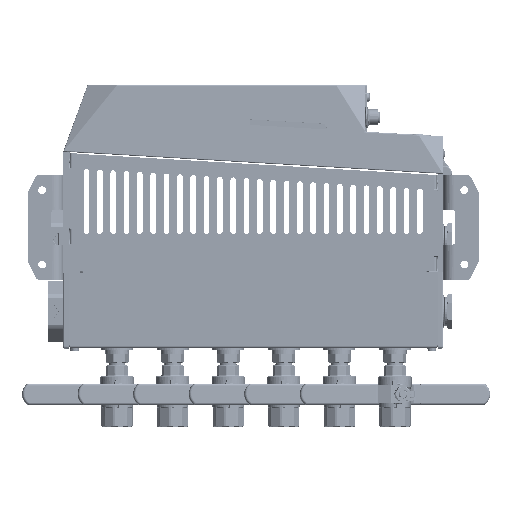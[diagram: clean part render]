
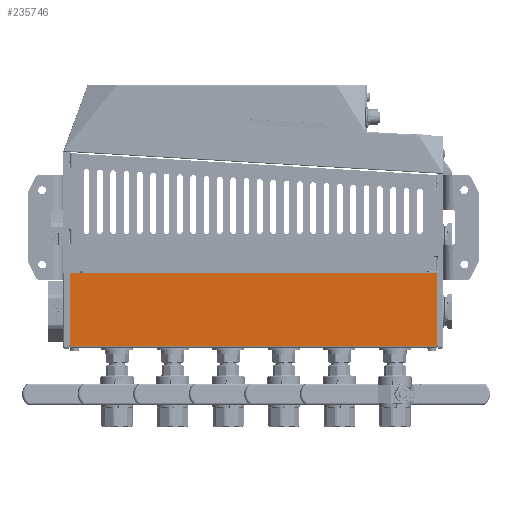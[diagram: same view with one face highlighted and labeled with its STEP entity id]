
A CAD part, left-side view. The second image highlights one B-rep face of the part: STEP entity #235746.
In plain terms, the highlighted planar face has unit normal (-1, 0, 0) as drawn and (0, -1, 0) by its records, which use the part's own axes.
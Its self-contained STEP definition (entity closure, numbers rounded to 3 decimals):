
#16571 = CARTESIAN_POINT ( 'NONE',  ( 0., -84., -165. ) ) ;
#23306 = AXIS2_PLACEMENT_3D ( 'NONE', #172385, #60688, #202007 ) ;
#24608 = VERTEX_POINT ( 'NONE', #54776 ) ;
#29340 = LINE ( 'NONE', #237175, #131068 ) ;
#34042 = VERTEX_POINT ( 'NONE', #145247 ) ;
#48014 = FACE_OUTER_BOUND ( 'NONE', #166303, .T. ) ;
#54776 = CARTESIAN_POINT ( 'NONE',  ( 2., -84., 165. ) ) ;
#55113 = CARTESIAN_POINT ( 'NONE',  ( 0., -84., 165. ) ) ;
#60688 = DIRECTION ( 'NONE',  ( 0., 1., 0. ) ) ;
#95391 = CARTESIAN_POINT ( 'NONE',  ( 68., -84., 164. ) ) ;
#95853 = DIRECTION ( 'NONE',  ( 0., 0., -1. ) ) ;
#106883 = EDGE_CURVE ( 'NONE', #187307, #232724, #139661, .T. ) ;
#117745 = EDGE_CURVE ( 'NONE', #24608, #187307, #302702, .T. ) ;
#130355 = DIRECTION ( 'NONE',  ( 1., 0., 0. ) ) ;
#131068 = VECTOR ( 'NONE', #95853, 1000. ) ;
#139661 = CIRCLE ( 'NONE', #252346, 1. ) ;
#145247 = CARTESIAN_POINT ( 'NONE',  ( 68., -84., -164. ) ) ;
#145777 = ORIENTED_EDGE ( 'NONE', *, *, #106883, .F. ) ;
#152161 = VERTEX_POINT ( 'NONE', #206663 ) ;
#154529 = CARTESIAN_POINT ( 'NONE',  ( 67., -84., 165. ) ) ;
#156393 = AXIS2_PLACEMENT_3D ( 'NONE', #224680, #364412, #161635 ) ;
#157902 = VERTEX_POINT ( 'NONE', #342316 ) ;
#159778 = VECTOR ( 'NONE', #130355, 1000. ) ;
#160055 = VECTOR ( 'NONE', #360137, 1000. ) ;
#161635 = DIRECTION ( 'NONE',  ( -1., 0., 0. ) ) ;
#166303 = EDGE_LOOP ( 'NONE', ( #338270, #145777, #364004, #282242, #318155, #280793 ) ) ;
#172385 = CARTESIAN_POINT ( 'NONE',  ( 67., -84., -164. ) ) ;
#176312 = DIRECTION ( 'NONE',  ( 0., 1., 0. ) ) ;
#187307 = VERTEX_POINT ( 'NONE', #154529 ) ;
#188842 = LINE ( 'NONE', #352750, #160055 ) ;
#196227 = EDGE_CURVE ( 'NONE', #232724, #34042, #188842, .T. ) ;
#202007 = DIRECTION ( 'NONE',  ( -1., 0., 0. ) ) ;
#206663 = CARTESIAN_POINT ( 'NONE',  ( 2., -84., -165. ) ) ;
#211043 = EDGE_CURVE ( 'NONE', #34042, #157902, #350449, .T. ) ;
#224482 = DIRECTION ( 'NONE',  ( 1., 0., 0. ) ) ;
#224680 = CARTESIAN_POINT ( 'NONE',  ( 0., -84., 165. ) ) ;
#232724 = VERTEX_POINT ( 'NONE', #95391 ) ;
#235746 = ADVANCED_FACE ( 'NONE', ( #48014 ), #250735, .T. ) ;
#237175 = CARTESIAN_POINT ( 'NONE',  ( 2., -84., 165. ) ) ;
#238629 = VECTOR ( 'NONE', #224482, 1000. ) ;
#248232 = EDGE_CURVE ( 'NONE', #152161, #157902, #271615, .T. ) ;
#250735 = PLANE ( 'NONE',  #156393 ) ;
#252346 = AXIS2_PLACEMENT_3D ( 'NONE', #323150, #176312, #265390 ) ;
#265390 = DIRECTION ( 'NONE',  ( -1., 0., 0. ) ) ;
#271615 = LINE ( 'NONE', #16571, #159778 ) ;
#280793 = ORIENTED_EDGE ( 'NONE', *, *, #211043, .F. ) ;
#282242 = ORIENTED_EDGE ( 'NONE', *, *, #309828, .T. ) ;
#302702 = LINE ( 'NONE', #55113, #238629 ) ;
#309828 = EDGE_CURVE ( 'NONE', #24608, #152161, #29340, .T. ) ;
#318155 = ORIENTED_EDGE ( 'NONE', *, *, #248232, .T. ) ;
#323150 = CARTESIAN_POINT ( 'NONE',  ( 67., -84., 164. ) ) ;
#338270 = ORIENTED_EDGE ( 'NONE', *, *, #196227, .F. ) ;
#342316 = CARTESIAN_POINT ( 'NONE',  ( 67., -84., -165. ) ) ;
#350449 = CIRCLE ( 'NONE', #23306, 1. ) ;
#352750 = CARTESIAN_POINT ( 'NONE',  ( 68., -84., 165. ) ) ;
#360137 = DIRECTION ( 'NONE',  ( 0., 0., -1. ) ) ;
#364004 = ORIENTED_EDGE ( 'NONE', *, *, #117745, .F. ) ;
#364412 = DIRECTION ( 'NONE',  ( 0., -1., 0. ) ) ;
